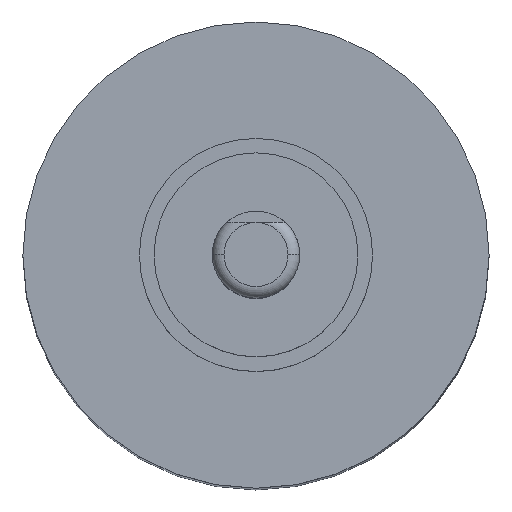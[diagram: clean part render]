
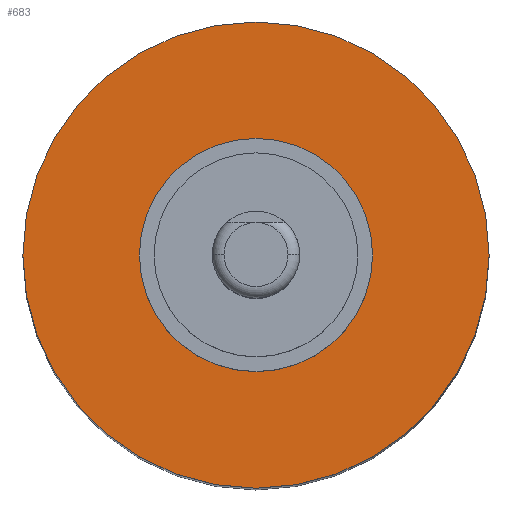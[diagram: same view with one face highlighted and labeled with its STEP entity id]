
A CAD part, top view. The second image highlights one B-rep face of the part: STEP entity #683.
In plain terms, the highlighted planar face has unit normal (0, 0, 1).
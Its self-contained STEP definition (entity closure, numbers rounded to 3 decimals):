
#35 = CARTESIAN_POINT ( 'NONE',  ( 0., 0., -6. ) ) ;
#49 = VERTEX_POINT ( 'NONE', #637 ) ;
#63 = CARTESIAN_POINT ( 'NONE',  ( 0., 0., -6. ) ) ;
#88 = CIRCLE ( 'NONE', #843, 4. ) ;
#103 = AXIS2_PLACEMENT_3D ( 'NONE', #35, #345, #960 ) ;
#118 = PLANE ( 'NONE',  #103 ) ;
#158 = FACE_OUTER_BOUND ( 'NONE', #927, .T. ) ;
#215 = DIRECTION ( 'NONE',  ( 0., -1., 0. ) ) ;
#274 = AXIS2_PLACEMENT_3D ( 'NONE', #865, #328, #324 ) ;
#319 = EDGE_CURVE ( 'NONE', #608, #49, #877, .T. ) ;
#324 = DIRECTION ( 'NONE',  ( 0., -1., 0. ) ) ;
#328 = DIRECTION ( 'NONE',  ( 0., 0., 1. ) ) ;
#345 = DIRECTION ( 'NONE',  ( 0., 0., 1. ) ) ;
#389 = ORIENTED_EDGE ( 'NONE', *, *, #903, .T. ) ;
#473 = CARTESIAN_POINT ( 'NONE',  ( 0., -4., -6. ) ) ;
#593 = DIRECTION ( 'NONE',  ( 0., 0., 1. ) ) ;
#608 = VERTEX_POINT ( 'NONE', #473 ) ;
#637 = CARTESIAN_POINT ( 'NONE',  ( 0., 4., -6. ) ) ;
#683 = ADVANCED_FACE ( 'NONE', ( #158 ), #118, .T. ) ;
#741 = ORIENTED_EDGE ( 'NONE', *, *, #319, .T. ) ;
#843 = AXIS2_PLACEMENT_3D ( 'NONE', #63, #593, #215 ) ;
#865 = CARTESIAN_POINT ( 'NONE',  ( 0., 0., -6. ) ) ;
#877 = CIRCLE ( 'NONE', #274, 4. ) ;
#903 = EDGE_CURVE ( 'NONE', #49, #608, #88, .T. ) ;
#927 = EDGE_LOOP ( 'NONE', ( #741, #389 ) ) ;
#960 = DIRECTION ( 'NONE',  ( 0., -1., 0. ) ) ;
